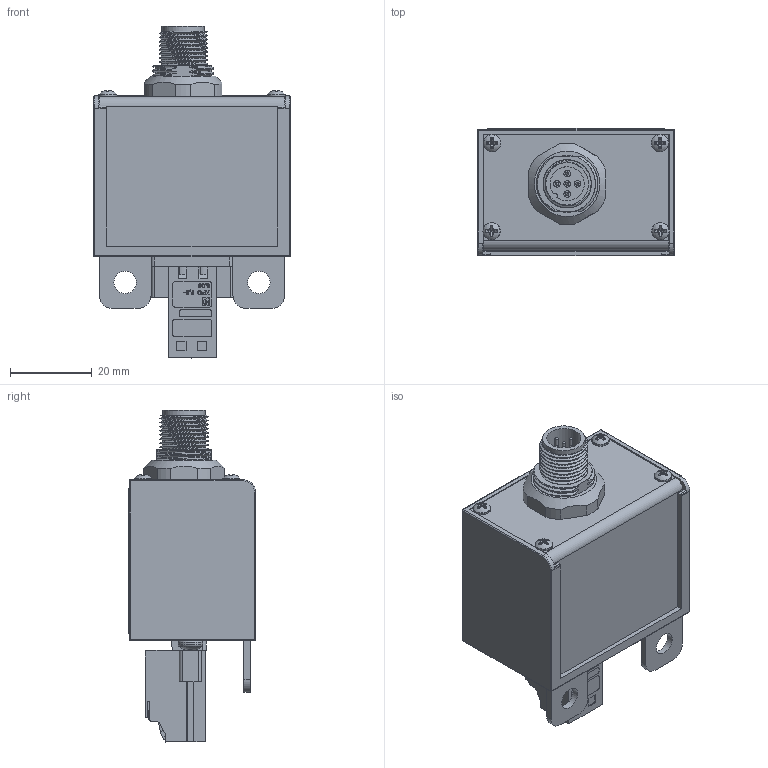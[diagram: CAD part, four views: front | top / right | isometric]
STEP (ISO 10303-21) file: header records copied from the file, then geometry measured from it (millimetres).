
FILE_DESCRIPTION (( 'STEP AP214' ), '1' );
FILE_NAME ('ILDxxxxXX2.STEP', '2026-05-08T16:49:43', ( '' ), ( '' ), 'SwSTEP 2.0', 'SolidWorks 2025', '' );
FILE_SCHEMA (( 'AUTOMOTIVE_DESIGN' ));
Length unit declared in the file: inch
Products named in the file (22): 1491521_02; Driver board with comp''s&connector_ILD - with M12 and No 6 pin header; 1491521_04; 1491521_06; Shell-FSFD 4.5; M3 x 10mm PHPS 92000A120_92000A120; dfk-mstbva_2.5-2-gf-5.08.stp; Nut-FSFD 4.5; Enclosure ILD Sticker with pn and logo; ENCLOSURE ILD-Back rev2e; 1491521_05; Pin-FSFD 4.5; pxc_1899281_07_00_DFK-MSTBVA-2-5-2-GF-5-08_3D; 1491521_03; 1491521; ENCLOSURE ILD-Front-rev2b; FSFD 4.5; 1491521_01; pxc_1899281_07_00_DFK-MSTBVA-2-5-2-GF-5-08_3D.stp; ILDxxxxXX2; #2 BHSM 18-8SS (92470A095)_92470A095; 1491521_07
Assembly tree (29 placements, depth 4):
  ILDxxxxXX2
    ENCLOSURE ILD-Back rev2e
    ENCLOSURE ILD-Front-rev2b
    Driver board with comp''s&connector_ILD - with M12 and No 6 pin header
      FSFD 4.5
        Shell-FSFD 4.5
        Pin-FSFD 4.5  x5
    #2 BHSM 18-8SS (92470A095)_92470A095  x4
    pxc_1899281_07_00_DFK-MSTBVA-2-5-2-GF-5-08_3D
      pxc_1899281_07_00_DFK-MSTBVA-2-5-2-GF-5-08_3D.stp
        dfk-mstbva_2.5-2-gf-5.08.stp
    M3 x 10mm PHPS 92000A120_92000A120  x2
    Nut-FSFD 4.5
    Enclosure ILD Sticker with pn and logo
    1491521
      1491521_01
      1491521_02
      1491521_03
      1491521_04
      1491521_05
      1491521_06
      1491521_07
Bounding box: 48.26 x 31.22 x 81.38 mm (x, y, z)
Volume: 26299.7 mm3; surface area: 33823 mm2
Topology: 42 solids, 42 shells, 3260 faces, 8733 edges, 5682 vertices
Faces by surface type: plane 1745, cylinder 792, bspline 549, cone 66, torus 56, sphere 52
Full cylindrical faces by diameter (mm): 0.8 x15, 1.6 x15, 1.702 x4, 2.184 x4, 2.705 x4, 3.048 x2, 3.175 x3, 3.683 x1, 3.81 x3, 4.242 x4, 4.826 x1, 5.5 x2, 6 x2, 10 x1, 10.45 x1, 14 x1, 15.85 x1
Entity records: 153672 total; most frequent: CARTESIAN_POINT 73252, ORIENTED_EDGE 15668, DIRECTION 12692, EDGE_CURVE 7834, LINE 5112, VECTOR 5112, VERTEX_POINT 5111, AXIS2_PLACEMENT_3D 3790
